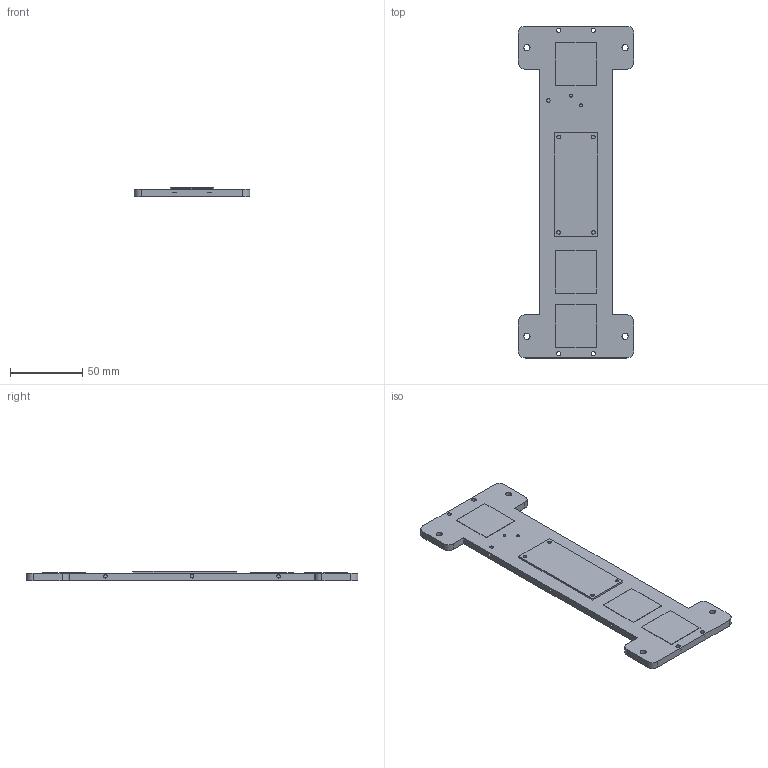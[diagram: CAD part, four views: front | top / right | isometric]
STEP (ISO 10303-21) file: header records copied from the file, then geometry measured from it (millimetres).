
FILE_DESCRIPTION (( 'STEP AP214' ), '1' );
FILE_NAME ('疏え炵苀_菁啣_V1.STEP', '2026-06-22T02:23:26', ( '' ), ( '' ), 'SwSTEP 2.0', 'SolidWorks 2022', '' );
FILE_SCHEMA (( 'AUTOMOTIVE_DESIGN' ));
Length unit declared in the file: millimetre
Products named in the file (1): 波片系统_底板_V1
Bounding box: 80 x 230 x 6.3 mm (x, y, z)
Volume: 68820.6 mm3; surface area: 31266.6 mm2
Topology: 1 solids, 1 shells, 109 faces, 258 edges, 172 vertices
Faces by surface type: cylinder 58, plane 51
Entity records: 3254 total; most frequent: DIRECTION 594, CARTESIAN_POINT 540, ORIENTED_EDGE 516, EDGE_CURVE 258, AXIS2_PLACEMENT_3D 226, VERTEX_POINT 172, EDGE_LOOP 146, VECTOR 142
